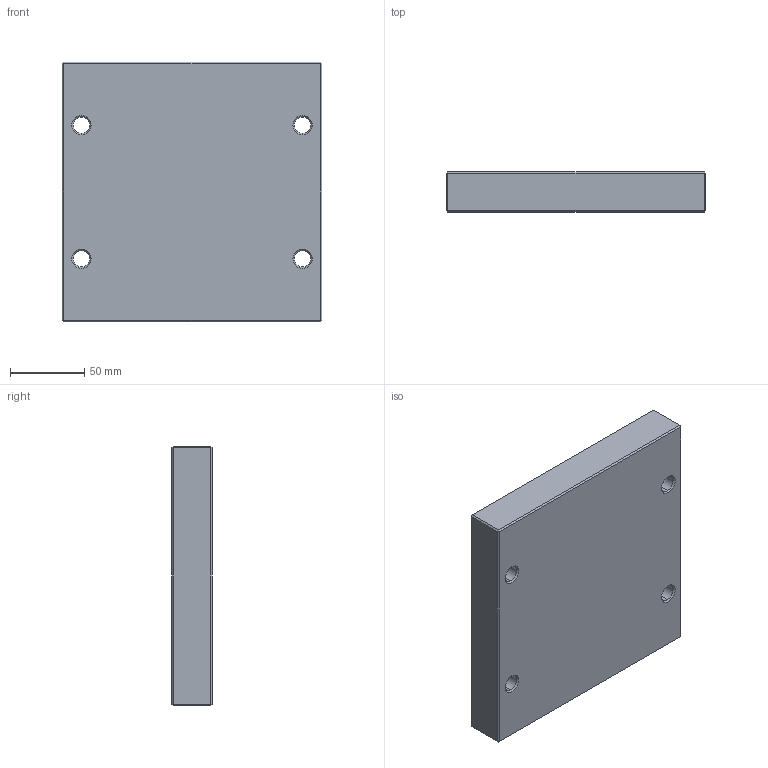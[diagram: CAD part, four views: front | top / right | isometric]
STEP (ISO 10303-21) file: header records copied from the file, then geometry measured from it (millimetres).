
FILE_DESCRIPTION (( 'STEP AP214' ), '1' );
FILE_NAME ('PS-175x175x27.STEP', '2021-01-11T12:17:00', ( 'August' ), ( '' ), 'SwSTEP 2.0', 'SolidWorks 2018', '' );
FILE_SCHEMA (( 'AUTOMOTIVE_DESIGN' ));
Length unit declared in the file: millimetre
Products named in the file (1): PS-175x175x27
Bounding box: 175 x 27 x 175 mm (x, y, z)
Volume: 807381.5 mm3; surface area: 83176 mm2
Topology: 1 solids, 1 shells, 62 faces, 128 edges, 72 vertices
Faces by surface type: plane 30, cone 16, cylinder 16
Entity records: 1650 total; most frequent: DIRECTION 302, CARTESIAN_POINT 263, ORIENTED_EDGE 256, EDGE_CURVE 128, AXIS2_PLACEMENT_3D 111, LINE 80, VECTOR 80, EDGE_LOOP 74
